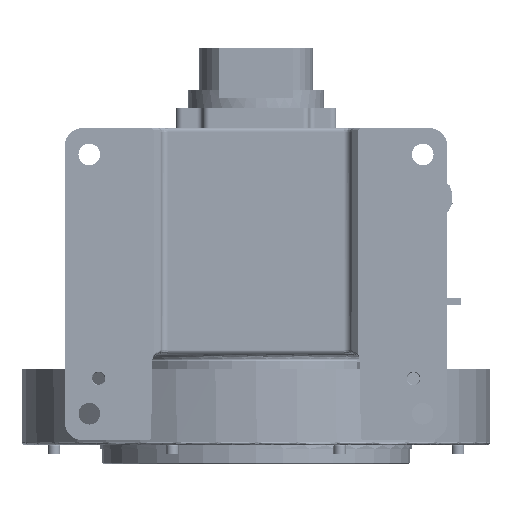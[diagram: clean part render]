
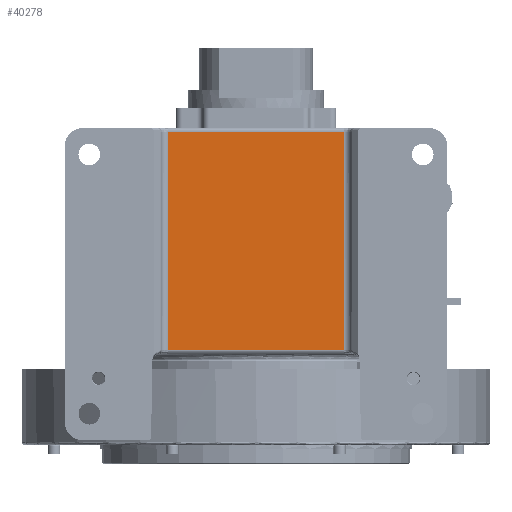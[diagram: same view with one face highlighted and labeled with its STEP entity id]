
A CAD part, front view. The second image highlights one B-rep face of the part: STEP entity #40278.
In plain terms, the highlighted planar face has unit normal (0, -1, 0).
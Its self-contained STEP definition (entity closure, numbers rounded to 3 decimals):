
#6598 = EDGE_LOOP ( 'NONE', ( #34182, #24341, #33556, #16298 ) ) ;
#16298 = ORIENTED_EDGE ( 'NONE', *, *, #184086, .F. ) ;
#24341 = ORIENTED_EDGE ( 'NONE', *, *, #50498, .T. ) ;
#27283 = DIRECTION ( 'NONE',  ( 0., 0., 1. ) ) ;
#28545 = CARTESIAN_POINT ( 'NONE',  ( -77., 20., 8. ) ) ;
#33556 = ORIENTED_EDGE ( 'NONE', *, *, #46523, .F. ) ;
#34182 = ORIENTED_EDGE ( 'NONE', *, *, #85340, .F. ) ;
#34398 = DIRECTION ( 'NONE',  ( 1., 0., 0. ) ) ;
#34793 = CARTESIAN_POINT ( 'NONE',  ( 71., 20., 8. ) ) ;
#35574 = CARTESIAN_POINT ( 'NONE',  ( -77., 20., 213.3 ) ) ;
#40278 = ADVANCED_FACE ( 'NONE', ( #133052 ), #50182, .F. ) ;
#41313 = VERTEX_POINT ( 'NONE', #34793 ) ;
#46523 = EDGE_CURVE ( 'NONE', #61065, #170115, #51604, .T. ) ;
#50182 = PLANE ( 'NONE',  #190844 ) ;
#50498 = EDGE_CURVE ( 'NONE', #41313, #170115, #182159, .T. ) ;
#51604 = LINE ( 'NONE', #125194, #167799 ) ;
#52745 = VERTEX_POINT ( 'NONE', #168698 ) ;
#56087 = DIRECTION ( 'NONE',  ( 0., 0., 1. ) ) ;
#61065 = VERTEX_POINT ( 'NONE', #151111 ) ;
#64712 = LINE ( 'NONE', #28545, #180924 ) ;
#66102 = DIRECTION ( 'NONE',  ( 0., 0., 1. ) ) ;
#73190 = CARTESIAN_POINT ( 'NONE',  ( -71., 20., 213.3 ) ) ;
#85340 = EDGE_CURVE ( 'NONE', #41313, #52745, #64712, .T. ) ;
#96742 = VECTOR ( 'NONE', #56087, 1000. ) ;
#98115 = CARTESIAN_POINT ( 'NONE',  ( 71., 20., 185. ) ) ;
#105504 = VECTOR ( 'NONE', #27283, 1000. ) ;
#125194 = CARTESIAN_POINT ( 'NONE',  ( -71.832, 20., 185. ) ) ;
#133052 = FACE_OUTER_BOUND ( 'NONE', #6598, .T. ) ;
#134662 = DIRECTION ( 'NONE',  ( -1., 0., 0. ) ) ;
#151111 = CARTESIAN_POINT ( 'NONE',  ( -71., 20., 185. ) ) ;
#156922 = DIRECTION ( 'NONE',  ( 0., 1., 0. ) ) ;
#162171 = CARTESIAN_POINT ( 'NONE',  ( 71., 20., 4.154 ) ) ;
#167799 = VECTOR ( 'NONE', #34398, 1000. ) ;
#168698 = CARTESIAN_POINT ( 'NONE',  ( -71., 20., 8. ) ) ;
#170115 = VERTEX_POINT ( 'NONE', #98115 ) ;
#180924 = VECTOR ( 'NONE', #134662, 1000. ) ;
#182159 = LINE ( 'NONE', #162171, #96742 ) ;
#184086 = EDGE_CURVE ( 'NONE', #52745, #61065, #190992, .T. ) ;
#190844 = AXIS2_PLACEMENT_3D ( 'NONE', #35574, #156922, #66102 ) ;
#190992 = LINE ( 'NONE', #73190, #105504 ) ;
